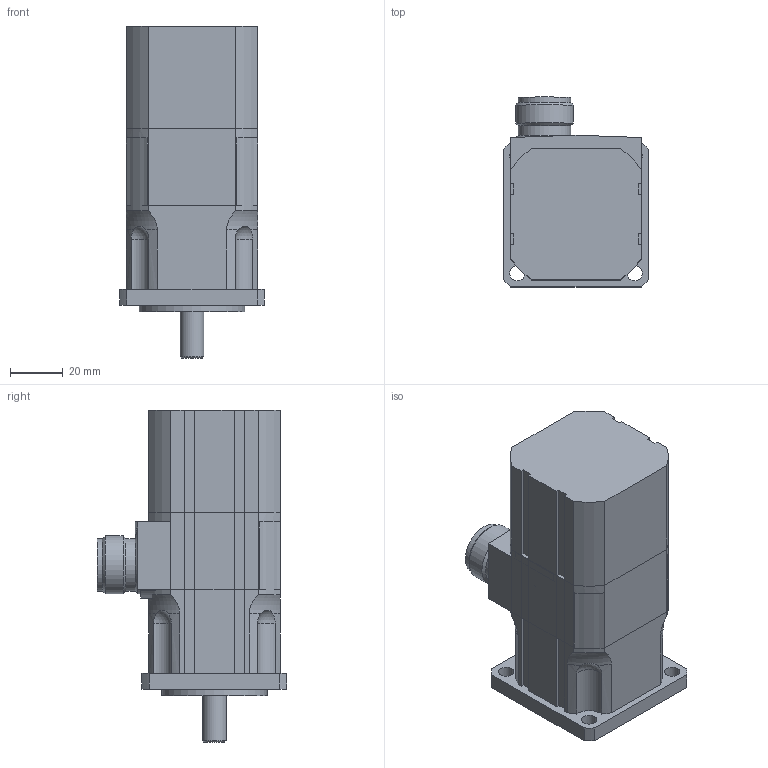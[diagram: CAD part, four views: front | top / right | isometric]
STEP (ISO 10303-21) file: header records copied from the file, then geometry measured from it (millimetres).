
FILE_DESCRIPTION(/* description */ ('Alibre Inc.'),/* implementation_level */ '2;1');
FILE_NAME(/* name */ 'export0',/* time_stamp */ '2011-03-11T09:10:18+01:00',/* author */ (''),/* organization */ (''),/* preprocessor_version */ 'ST-DEVELOPER v12',/* originating_system */ 'Alibre',/* authorisation */ '');
FILE_SCHEMA (('ALIBRE_SCHEMA','CONFIG_CONTROL_DESIGN'));
Length unit declared in the file: millimetre
Products named in the file (4): ID_1
Bounding box: 55 x 72.01 x 126 mm (x, y, z)
Volume: 350372.7 mm3; surface area: 47868.5 mm2
Topology: 3 solids, 3 shells, 159 faces, 426 edges, 281 vertices
Faces by surface type: cylinder 70, plane 68, bspline 9, cone 4, sphere 4, torus 4
Full cylindrical faces by diameter (mm): 2.7 x4, 9 x1, 20 x3, 22 x2, 26 x1, 40 x1
Entity records: 17405 total; most frequent: CARTESIAN_POINT 4767, ORIENTED_EDGE 2104, DIRECTION 2068, EDGE_CURVE 1052, AXIS2_PLACEMENT_3D 806, VERTEX_POINT 727, VECTOR 635, LINE 605
